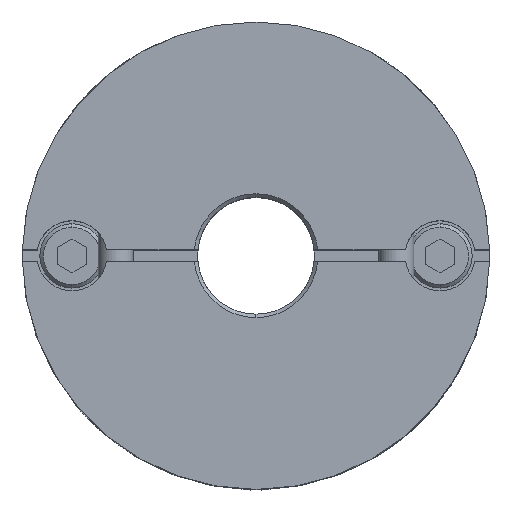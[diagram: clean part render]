
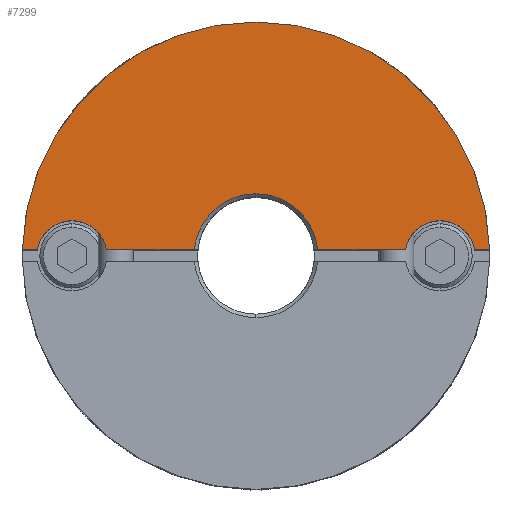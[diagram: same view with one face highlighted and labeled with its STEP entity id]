
A CAD part, top view. The second image highlights one B-rep face of the part: STEP entity #7299.
In plain terms, the highlighted planar face has unit normal (0, 0, 1).
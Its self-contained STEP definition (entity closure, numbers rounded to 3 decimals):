
#605=CARTESIAN_POINT('',(0.,20.0,15.6));
#606=VERTEX_POINT('',#605);
#690=CARTESIAN_POINT('',(-19.994,0.5,15.6));
#691=VERTEX_POINT('',#690);
#698=CARTESIAN_POINT('',(0.,0.0,15.6));
#699=DIRECTION('',(0.0,0.0,-1.0));
#700=DIRECTION('',(0.0,1.0,0.0));
#701=AXIS2_PLACEMENT_3D('',#698,#699,#700);
#702=CIRCLE('',#701,20.0);
#703=EDGE_CURVE('',#691,#606,#702,.T.);
#993=CARTESIAN_POINT('',(0.,5.3,15.6));
#994=VERTEX_POINT('',#993);
#1001=CARTESIAN_POINT('',(-5.276,0.5,15.6));
#1002=VERTEX_POINT('',#1001);
#1003=CARTESIAN_POINT('',(0.,0.0,15.6));
#1004=DIRECTION('',(0.0,0.0,1.0));
#1005=DIRECTION('',(0.0,-1.0,0.0));
#1006=AXIS2_PLACEMENT_3D('',#1003,#1004,#1005);
#1007=CIRCLE('',#1006,5.3);
#1008=EDGE_CURVE('',#994,#1002,#1007,.T.);
#1309=CARTESIAN_POINT('',(-15.75,3.,15.6));
#1310=VERTEX_POINT('',#1309);
#1319=CARTESIAN_POINT('',(-18.708,0.5,15.6));
#1320=VERTEX_POINT('',#1319);
#1321=CARTESIAN_POINT('',(-15.75,0.,15.6));
#1322=DIRECTION('',(0.0,0.0,-1.0));
#1323=DIRECTION('',(0.0,1.0,0.0));
#1324=AXIS2_PLACEMENT_3D('',#1321,#1322,#1323);
#1325=CIRCLE('',#1324,3.0);
#1326=EDGE_CURVE('',#1320,#1310,#1325,.T.);
#1579=CARTESIAN_POINT('',(15.75,3.,15.6));
#1580=VERTEX_POINT('',#1579);
#1589=CARTESIAN_POINT('',(12.792,0.5,15.6));
#1590=VERTEX_POINT('',#1589);
#1591=CARTESIAN_POINT('',(15.75,0.,15.6));
#1592=DIRECTION('',(0.0,0.0,-1.0));
#1593=DIRECTION('',(0.0,1.0,0.0));
#1594=AXIS2_PLACEMENT_3D('',#1591,#1592,#1593);
#1595=CIRCLE('',#1594,3.0);
#1596=EDGE_CURVE('',#1590,#1580,#1595,.T.);
#6010=CARTESIAN_POINT('',(18.708,0.5,15.6));
#6011=VERTEX_POINT('',#6010);
#6018=CARTESIAN_POINT('',(15.75,0.,15.6));
#6019=DIRECTION('',(0.0,0.0,-1.0));
#6020=DIRECTION('',(0.0,1.0,0.0));
#6021=AXIS2_PLACEMENT_3D('',#6018,#6019,#6020);
#6022=CIRCLE('',#6021,3.0);
#6023=EDGE_CURVE('',#1580,#6011,#6022,.T.);
#6462=CARTESIAN_POINT('',(-12.792,0.5,15.6));
#6463=VERTEX_POINT('',#6462);
#6470=CARTESIAN_POINT('',(-15.75,0.,15.6));
#6471=DIRECTION('',(0.0,0.0,-1.0));
#6472=DIRECTION('',(0.0,1.0,0.0));
#6473=AXIS2_PLACEMENT_3D('',#6470,#6471,#6472);
#6474=CIRCLE('',#6473,3.0);
#6475=EDGE_CURVE('',#1310,#6463,#6474,.T.);
#6568=CARTESIAN_POINT('',(-12.792,0.5,15.6));
#6569=DIRECTION('',(1.0,0.0,0.0));
#6570=VECTOR('',#6569,7.516);
#6571=LINE('',#6568,#6570);
#6572=EDGE_CURVE('',#6463,#1002,#6571,.T.);
#6635=CARTESIAN_POINT('',(5.276,0.5,15.6));
#6636=VERTEX_POINT('',#6635);
#6637=CARTESIAN_POINT('',(5.276,0.5,15.6));
#6638=DIRECTION('',(1.0,0.0,0.0));
#6639=VECTOR('',#6638,7.516);
#6640=LINE('',#6637,#6639);
#6641=EDGE_CURVE('',#6636,#1590,#6640,.T.);
#7202=CARTESIAN_POINT('',(-19.994,0.5,15.6));
#7203=DIRECTION('',(1.0,0.0,0.0));
#7204=VECTOR('',#7203,1.286);
#7205=LINE('',#7202,#7204);
#7206=EDGE_CURVE('',#691,#1320,#7205,.T.);
#7261=CARTESIAN_POINT('',(0.,1.818,15.6));
#7262=DIRECTION('',(0.0,0.0,1.0));
#7263=DIRECTION('',(0.0,1.0,0.0));
#7264=AXIS2_PLACEMENT_3D('',#7261,#7262,#7263);
#7265=PLANE('',#7264);
#7266=ORIENTED_EDGE('',*,*,#1326,.T.);
#7267=ORIENTED_EDGE('',*,*,#6475,.T.);
#7268=ORIENTED_EDGE('',*,*,#6572,.T.);
#7269=ORIENTED_EDGE('',*,*,#1008,.F.);
#7270=CARTESIAN_POINT('',(0.,0.0,15.6));
#7271=DIRECTION('',(0.0,0.0,1.0));
#7272=DIRECTION('',(0.0,-1.0,0.0));
#7273=AXIS2_PLACEMENT_3D('',#7270,#7271,#7272);
#7274=CIRCLE('',#7273,5.3);
#7275=EDGE_CURVE('',#6636,#994,#7274,.T.);
#7276=ORIENTED_EDGE('',*,*,#7275,.F.);
#7277=ORIENTED_EDGE('',*,*,#6641,.T.);
#7278=ORIENTED_EDGE('',*,*,#1596,.T.);
#7279=ORIENTED_EDGE('',*,*,#6023,.T.);
#7280=CARTESIAN_POINT('',(19.994,0.5,15.6));
#7281=VERTEX_POINT('',#7280);
#7282=CARTESIAN_POINT('',(18.708,0.5,15.6));
#7283=DIRECTION('',(1.0,0.0,0.0));
#7284=VECTOR('',#7283,1.286);
#7285=LINE('',#7282,#7284);
#7286=EDGE_CURVE('',#6011,#7281,#7285,.T.);
#7287=ORIENTED_EDGE('',*,*,#7286,.T.);
#7288=CARTESIAN_POINT('',(0.,0.0,15.6));
#7289=DIRECTION('',(0.0,0.0,-1.0));
#7290=DIRECTION('',(0.0,1.0,0.0));
#7291=AXIS2_PLACEMENT_3D('',#7288,#7289,#7290);
#7292=CIRCLE('',#7291,20.0);
#7293=EDGE_CURVE('',#606,#7281,#7292,.T.);
#7294=ORIENTED_EDGE('',*,*,#7293,.F.);
#7295=ORIENTED_EDGE('',*,*,#703,.F.);
#7296=ORIENTED_EDGE('',*,*,#7206,.T.);
#7297=EDGE_LOOP('',(#7266,#7267,#7268,#7269,#7276,#7277,#7278,#7279,#7287,#7294,#7295,#7296));
#7298=FACE_OUTER_BOUND('',#7297,.T.);
#7299=ADVANCED_FACE('',(#7298),#7265,.T.);
